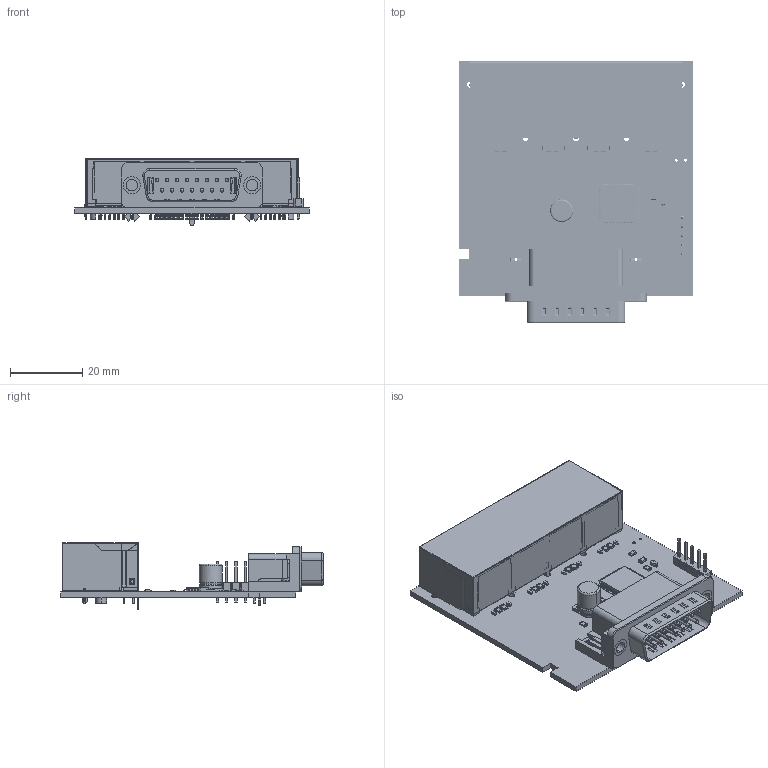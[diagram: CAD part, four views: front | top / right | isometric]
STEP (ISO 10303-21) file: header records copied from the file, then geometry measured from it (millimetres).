
FILE_DESCRIPTION (( 'STEP AP214' ), '1' );
FILE_NAME ('FGT_PRTEXT_0222_FOEM-SWM.STEP', '2023-09-29T16:17:25', ( '' ), ( '' ), 'SwSTEP 2.0', 'SolidWorks 2023', '' );
FILE_SCHEMA (( 'AUTOMOTIVE_DESIGN' ));
Length unit declared in the file: inch
Products named in the file (1): FGT_PRTEXT_0222_FOEM-SWM
Bounding box: 65 x 72.64 x 18.5 mm (x, y, z)
Volume: 20836.3 mm3; surface area: 42124.8 mm2
Topology: 89 solids, 89 shells, 4597 faces, 12195 edges, 7814 vertices
Faces by surface type: plane 2888, cylinder 1093, bspline 539, cone 45, torus 17, sphere 15
Entity records: 291566 total; most frequent: CARTESIAN_POINT 118800, ORIENTED_EDGE 24300, DIRECTION 21240, EDGE_CURVE 12150, VECTOR 8976, LINE 8976, VERTEX_POINT 7784, AXIS2_PLACEMENT_3D 6132
